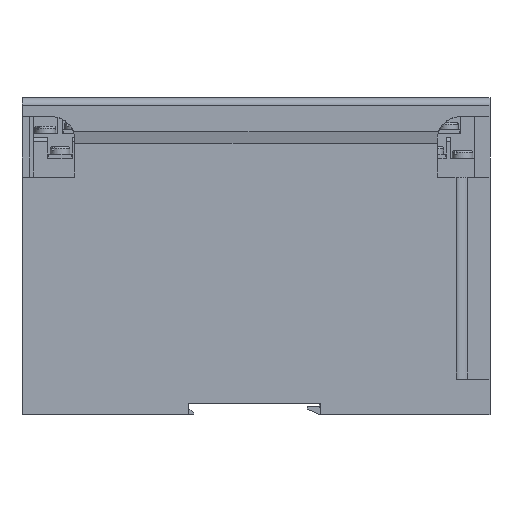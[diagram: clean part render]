
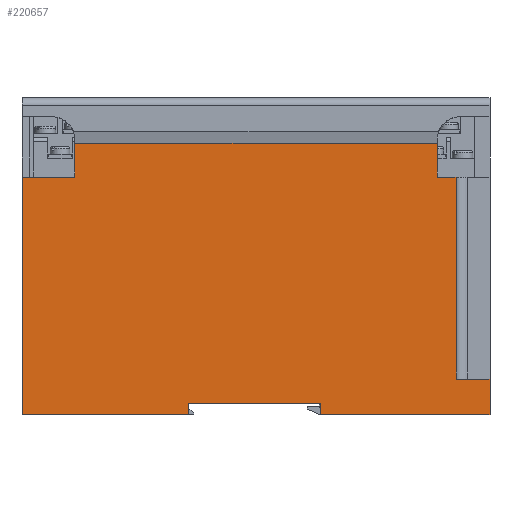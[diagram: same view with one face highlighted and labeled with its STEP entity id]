
A CAD part, left-side view. The second image highlights one B-rep face of the part: STEP entity #220657.
In plain terms, the highlighted planar face has unit normal (-1, 0, 0).
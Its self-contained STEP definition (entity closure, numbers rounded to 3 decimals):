
#337 = CARTESIAN_POINT ( 'NONE',  ( -52.5, 124., 0. ) ) ;
#8529 = CARTESIAN_POINT ( 'NONE',  ( -52.5, 80., 3. ) ) ;
#31559 = CARTESIAN_POINT ( 'NONE',  ( -52.5, 124., 84. ) ) ;
#31669 = VECTOR ( 'NONE', #203999, 1000. ) ;
#37753 = DIRECTION ( 'NONE',  ( 0., 1., 0. ) ) ;
#47931 = CARTESIAN_POINT ( 'NONE',  ( -52.5, 0., 84. ) ) ;
#53644 = FACE_OUTER_BOUND ( 'NONE', #165331, .T. ) ;
#56403 = LINE ( 'NONE', #70870, #83642 ) ;
#60844 = LINE ( 'NONE', #47931, #361579 ) ;
#62636 = CARTESIAN_POINT ( 'NONE',  ( -52.5, 80., 0. ) ) ;
#64815 = VERTEX_POINT ( 'NONE', #442534 ) ;
#65856 = CARTESIAN_POINT ( 'NONE',  ( -52.5, 0., 9.5 ) ) ;
#67561 = EDGE_CURVE ( 'NONE', #245923, #206402, #122888, .T. ) ;
#68924 = CARTESIAN_POINT ( 'NONE',  ( -52.5, 9., 9.5 ) ) ;
#70870 = CARTESIAN_POINT ( 'NONE',  ( -52.5, 0., 63. ) ) ;
#71391 = LINE ( 'NONE', #281810, #334488 ) ;
#71875 = ORIENTED_EDGE ( 'NONE', *, *, #374291, .T. ) ;
#74554 = PLANE ( 'NONE',  #234232 ) ;
#78606 = CARTESIAN_POINT ( 'NONE',  ( -52.5, 0., 0. ) ) ;
#83642 = VECTOR ( 'NONE', #37753, 1000. ) ;
#84252 = ORIENTED_EDGE ( 'NONE', *, *, #331613, .F. ) ;
#84353 = EDGE_CURVE ( 'NONE', #250966, #421727, #248878, .T. ) ;
#85418 = VECTOR ( 'NONE', #442506, 1000. ) ;
#86997 = CARTESIAN_POINT ( 'NONE',  ( -52.5, 14., 72. ) ) ;
#93137 = VECTOR ( 'NONE', #241297, 1000. ) ;
#96815 = EDGE_CURVE ( 'NONE', #250966, #352828, #310187, .T. ) ;
#99885 = VERTEX_POINT ( 'NONE', #133909 ) ;
#108917 = DIRECTION ( 'NONE',  ( 0., 0., -1. ) ) ;
#109126 = DIRECTION ( 'NONE',  ( 1., 0., 0. ) ) ;
#115761 = ORIENTED_EDGE ( 'NONE', *, *, #84353, .F. ) ;
#115902 = VECTOR ( 'NONE', #108917, 1000. ) ;
#117705 = VECTOR ( 'NONE', #377675, 1000. ) ;
#122888 = LINE ( 'NONE', #137543, #117705 ) ;
#132599 = LINE ( 'NONE', #274027, #395879 ) ;
#132936 = DIRECTION ( 'NONE',  ( 0., 0., -1. ) ) ;
#133909 = CARTESIAN_POINT ( 'NONE',  ( -52.5, 9., 63. ) ) ;
#135903 = CARTESIAN_POINT ( 'NONE',  ( -52.5, 45., 3. ) ) ;
#137543 = CARTESIAN_POINT ( 'NONE',  ( -52.5, 0., 0. ) ) ;
#144827 = VECTOR ( 'NONE', #182115, 1000. ) ;
#145228 = VERTEX_POINT ( 'NONE', #270347 ) ;
#147514 = VERTEX_POINT ( 'NONE', #397380 ) ;
#150080 = DIRECTION ( 'NONE',  ( 0., 0., -1. ) ) ;
#153700 = LINE ( 'NONE', #416784, #115902 ) ;
#156840 = ORIENTED_EDGE ( 'NONE', *, *, #67561, .T. ) ;
#161973 = VERTEX_POINT ( 'NONE', #86997 ) ;
#165331 = EDGE_LOOP ( 'NONE', ( #156840, #280823, #115761, #383688, #317994, #256839, #84252, #277535, #375416, #431638, #398676, #278912, #71875, #219062 ) ) ;
#174431 = VECTOR ( 'NONE', #405300, 1000. ) ;
#181210 = DIRECTION ( 'NONE',  ( 0., 1., 0. ) ) ;
#181519 = VECTOR ( 'NONE', #132936, 1000. ) ;
#182115 = DIRECTION ( 'NONE',  ( 0., -1., 0. ) ) ;
#186093 = CARTESIAN_POINT ( 'NONE',  ( -52.5, 80., 3. ) ) ;
#189443 = LINE ( 'NONE', #186093, #398900 ) ;
#197971 = CARTESIAN_POINT ( 'NONE',  ( -52.5, 0., 9.5 ) ) ;
#200456 = DIRECTION ( 'NONE',  ( 0., -1., 0. ) ) ;
#202026 = CARTESIAN_POINT ( 'NONE',  ( -52.5, 14., 72. ) ) ;
#202650 = DIRECTION ( 'NONE',  ( 0., 0., -1. ) ) ;
#203999 = DIRECTION ( 'NONE',  ( 0., 0., 1. ) ) ;
#206402 = VERTEX_POINT ( 'NONE', #62636 ) ;
#206784 = CARTESIAN_POINT ( 'NONE',  ( -52.5, 80., 3. ) ) ;
#209315 = VERTEX_POINT ( 'NONE', #320932 ) ;
#213787 = CARTESIAN_POINT ( 'NONE',  ( -52.5, 45., 0. ) ) ;
#214546 = DIRECTION ( 'NONE',  ( 0., 0., -1. ) ) ;
#219062 = ORIENTED_EDGE ( 'NONE', *, *, #443755, .T. ) ;
#220657 = ADVANCED_FACE ( 'NONE', ( #53644 ), #74554, .F. ) ;
#234232 = AXIS2_PLACEMENT_3D ( 'NONE', #314549, #109126, #248511 ) ;
#236103 = LINE ( 'NONE', #78606, #144827 ) ;
#241297 = DIRECTION ( 'NONE',  ( 0., 1., 0. ) ) ;
#245923 = VERTEX_POINT ( 'NONE', #337 ) ;
#248511 = DIRECTION ( 'NONE',  ( 0., 0., -1. ) ) ;
#248878 = LINE ( 'NONE', #206784, #93137 ) ;
#250966 = VERTEX_POINT ( 'NONE', #320521 ) ;
#252207 = LINE ( 'NONE', #68924, #31669 ) ;
#252372 = EDGE_CURVE ( 'NONE', #352828, #64815, #236103, .T. ) ;
#256839 = ORIENTED_EDGE ( 'NONE', *, *, #385498, .F. ) ;
#265804 = LINE ( 'NONE', #197971, #174431 ) ;
#267036 = EDGE_CURVE ( 'NONE', #99885, #145228, #71391, .T. ) ;
#270347 = CARTESIAN_POINT ( 'NONE',  ( -52.5, 14., 63. ) ) ;
#273925 = EDGE_CURVE ( 'NONE', #209315, #99885, #252207, .T. ) ;
#274027 = CARTESIAN_POINT ( 'NONE',  ( -52.5, 110., 72. ) ) ;
#277535 = ORIENTED_EDGE ( 'NONE', *, *, #273925, .T. ) ;
#278912 = ORIENTED_EDGE ( 'NONE', *, *, #379803, .T. ) ;
#280823 = ORIENTED_EDGE ( 'NONE', *, *, #310674, .F. ) ;
#281810 = CARTESIAN_POINT ( 'NONE',  ( -52.5, 0., 63. ) ) ;
#310187 = LINE ( 'NONE', #135903, #181519 ) ;
#310674 = EDGE_CURVE ( 'NONE', #421727, #206402, #189443, .T. ) ;
#314549 = CARTESIAN_POINT ( 'NONE',  ( -52.5, 0., 84. ) ) ;
#317994 = ORIENTED_EDGE ( 'NONE', *, *, #252372, .T. ) ;
#318761 = VERTEX_POINT ( 'NONE', #371626 ) ;
#320521 = CARTESIAN_POINT ( 'NONE',  ( -52.5, 45., 3. ) ) ;
#320932 = CARTESIAN_POINT ( 'NONE',  ( -52.5, 9., 9.5 ) ) ;
#331613 = EDGE_CURVE ( 'NONE', #209315, #367877, #265804, .T. ) ;
#334488 = VECTOR ( 'NONE', #181210, 1000. ) ;
#336441 = VECTOR ( 'NONE', #202650, 1000. ) ;
#352828 = VERTEX_POINT ( 'NONE', #213787 ) ;
#361579 = VECTOR ( 'NONE', #214546, 1000. ) ;
#362135 = EDGE_CURVE ( 'NONE', #377520, #161973, #132599, .T. ) ;
#367877 = VERTEX_POINT ( 'NONE', #65856 ) ;
#371626 = CARTESIAN_POINT ( 'NONE',  ( -52.5, 110., 63. ) ) ;
#374291 = EDGE_CURVE ( 'NONE', #318761, #147514, #56403, .T. ) ;
#375416 = ORIENTED_EDGE ( 'NONE', *, *, #267036, .T. ) ;
#377520 = VERTEX_POINT ( 'NONE', #391483 ) ;
#377675 = DIRECTION ( 'NONE',  ( 0., -1., 0. ) ) ;
#379803 = EDGE_CURVE ( 'NONE', #377520, #318761, #153700, .T. ) ;
#383688 = ORIENTED_EDGE ( 'NONE', *, *, #96815, .T. ) ;
#383806 = EDGE_CURVE ( 'NONE', #161973, #145228, #385987, .T. ) ;
#385498 = EDGE_CURVE ( 'NONE', #367877, #64815, #60844, .T. ) ;
#385987 = LINE ( 'NONE', #202026, #85418 ) ;
#391483 = CARTESIAN_POINT ( 'NONE',  ( -52.5, 110., 72. ) ) ;
#395879 = VECTOR ( 'NONE', #200456, 1000. ) ;
#397380 = CARTESIAN_POINT ( 'NONE',  ( -52.5, 124., 63. ) ) ;
#398676 = ORIENTED_EDGE ( 'NONE', *, *, #362135, .F. ) ;
#398900 = VECTOR ( 'NONE', #150080, 1000. ) ;
#405300 = DIRECTION ( 'NONE',  ( 0., -1., 0. ) ) ;
#406475 = LINE ( 'NONE', #31559, #336441 ) ;
#416784 = CARTESIAN_POINT ( 'NONE',  ( -52.5, 110., 72. ) ) ;
#421727 = VERTEX_POINT ( 'NONE', #8529 ) ;
#431638 = ORIENTED_EDGE ( 'NONE', *, *, #383806, .F. ) ;
#442506 = DIRECTION ( 'NONE',  ( 0., 0., -1. ) ) ;
#442534 = CARTESIAN_POINT ( 'NONE',  ( -52.5, 0., 0. ) ) ;
#443755 = EDGE_CURVE ( 'NONE', #147514, #245923, #406475, .T. ) ;
